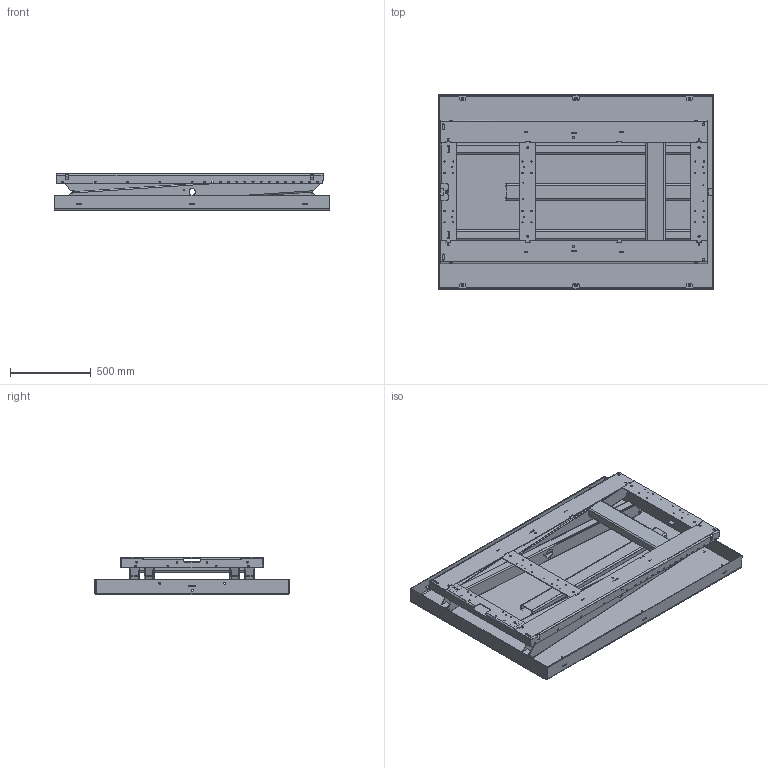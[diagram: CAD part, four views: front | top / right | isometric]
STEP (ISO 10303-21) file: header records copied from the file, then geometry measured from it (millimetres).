
FILE_DESCRIPTION(/* description */ ('TM 1500B 1700x1200'),/* implementation_level */ '2;1');
FILE_NAME(/* name */ 'C:\Autodesk_VaultWork\Ritningar\30000-39999\33000-33999\33145_Collapsed.stp',/* time_stamp */ '2020-01-13T10:18:39+01:00',/* author */ ('johso'),/* organization */ (''),/* preprocessor_version */ 'ST-DEVELOPER v16.5',/* originating_system */ 'Autodesk Inventor 2017',/* authorisation */ '');
FILE_SCHEMA (('AUTOMOTIVE_DESIGN { 1 0 10303 214 3 1 1 }'));
Length unit declared in the file: millimetre
Products named in the file (24): 33145.tmp; 35872; 35871-3; 35871-2; 44870; 35871-1; 612061; 33146; 33146-1; 42754; 45259; 45387; 80131; 85955; 41333-1175; 34264; 33144; 33139; 82148-1610; 82147 - 650; 33143; 33138; 82148-1610_1; 43891
Assembly tree (43 placements, depth 5):
  33145.tmp
    35872
      35871-3
      35871-2  x2
      45259  x2
      44870  x2
      35871-1
      612061
    33146
      33146-1
      42754  x2
      45259  x2
      45387  x8
      80131  x6
      85955
      41333-1175
    34264
      33144
        33139  x2
          82148-1610
        82147 - 650
      33143
        33138  x2
          82148-1610_1
      43891
Bounding box: 1700 x 1200 x 230 mm (x, y, z)
Volume: 29307966.2 mm3; surface area: 11459225.6 mm2
Topology: 35 solids, 35 shells, 1628 faces, 4558 edges, 3003 vertices
Faces by surface type: cylinder 829, plane 755, cone 44
Full cylindrical faces by diameter (mm): 5.55 x4, 7.4 x42, 8 x6, 10.481 x4, 11.63 x6, 12.5 x6, 13 x6, 13.835 x1, 14.2 x16, 18.5 x1, 19 x1, 28.1 x4, 40.2 x4, 60 x4
Entity records: 38527 total; most frequent: CARTESIAN_POINT 6868, DIRECTION 6684, ORIENTED_EDGE 6310, EDGE_CURVE 3155, AXIS2_PLACEMENT_3D 2389, VERTEX_POINT 2119, LINE 1906, VECTOR 1906
